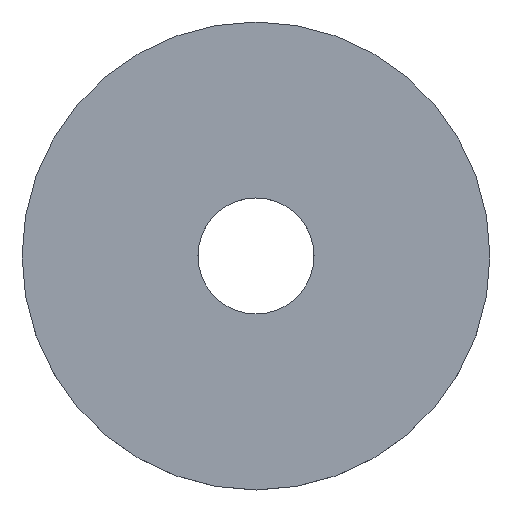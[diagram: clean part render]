
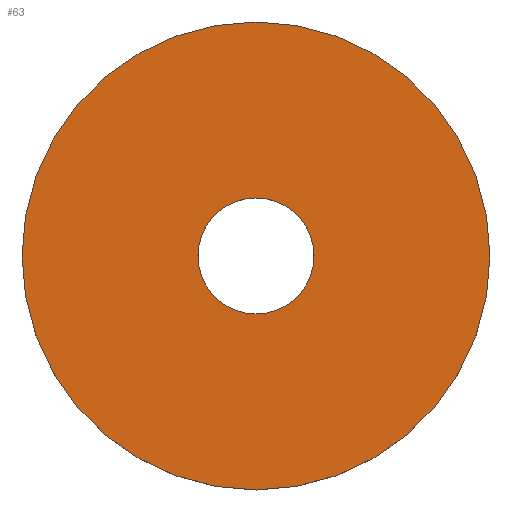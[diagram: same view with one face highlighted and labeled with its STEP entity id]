
A CAD part, top view. The second image highlights one B-rep face of the part: STEP entity #63.
In plain terms, the highlighted planar face has unit normal (0, 0, 1).
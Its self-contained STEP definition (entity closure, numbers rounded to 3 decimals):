
#15=FACE_BOUND('',#26,.T.);
#17=PLANE('',#91);
#21=FACE_OUTER_BOUND('',#25,.T.);
#25=EDGE_LOOP('',(#55));
#26=EDGE_LOOP('',(#56));
#34=CIRCLE('',#87,3.1);
#36=CIRCLE('',#90,12.5);
#38=VERTEX_POINT('',#117);
#40=VERTEX_POINT('',#123);
#43=EDGE_CURVE('',#38,#38,#34,.T.);
#46=EDGE_CURVE('',#40,#40,#36,.T.);
#55=ORIENTED_EDGE('',*,*,#46,.T.);
#56=ORIENTED_EDGE('',*,*,#43,.T.);
#63=ADVANCED_FACE('',(#21,#15),#17,.T.);
#87=AXIS2_PLACEMENT_3D('',#119,#100,#101);
#90=AXIS2_PLACEMENT_3D('',#125,#107,#108);
#91=AXIS2_PLACEMENT_3D('',#126,#109,#110);
#100=DIRECTION('center_axis',(0.,0.,-1.));
#101=DIRECTION('ref_axis',(-1.,0.,0.));
#107=DIRECTION('center_axis',(0.,0.,1.));
#108=DIRECTION('ref_axis',(1.,0.,0.));
#109=DIRECTION('center_axis',(0.,0.,1.));
#110=DIRECTION('ref_axis',(1.,0.,0.));
#117=CARTESIAN_POINT('',(3.1,0.,0.));
#119=CARTESIAN_POINT('Origin',(0.,0.,0.));
#123=CARTESIAN_POINT('',(-12.5,0.,0.));
#125=CARTESIAN_POINT('Origin',(0.,0.,0.));
#126=CARTESIAN_POINT('Origin',(0.,0.,0.));
